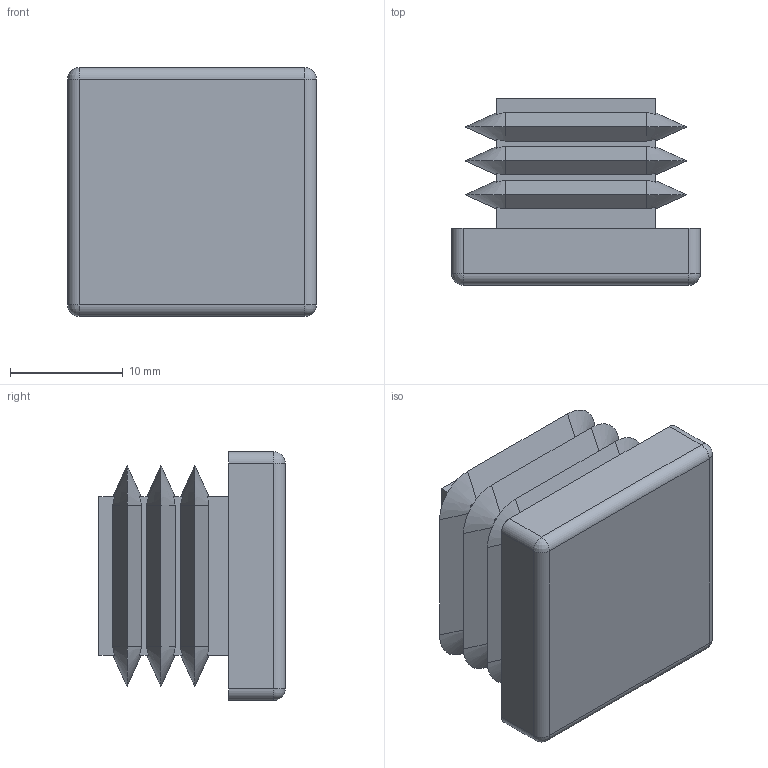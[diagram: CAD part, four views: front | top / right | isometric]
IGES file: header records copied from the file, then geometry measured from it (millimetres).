
Start section: SolidWorks IGES file using analytic representation for surfaces
Global section: file name: C:\HEMSIDA\cad\SLDPRT_2015\ifr\\ifr_22.igs; native system: SolidWorks 2015; preprocessor: SolidWorks 2015; author: Magnus; date: 150818.111754; units: millimetre
Bounding box: 22 x 16.5 x 22 mm (x, y, z)
Surface area: 3260.1 mm2 (no closed solid volume)
Topology: 0 solids, 0 shells, 88 faces, 608 edges, 604 vertices
Faces by surface type: bspline 52, revolution 36
